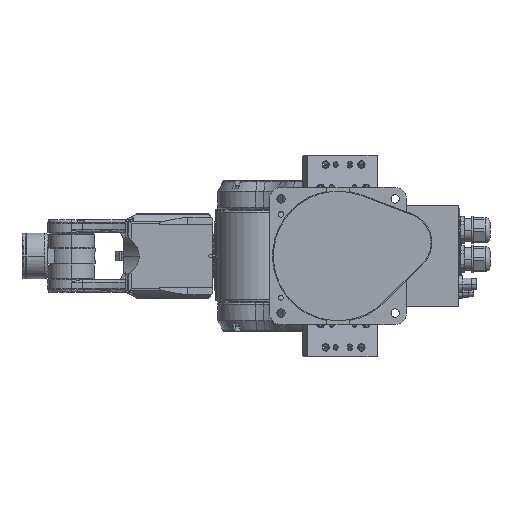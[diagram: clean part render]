
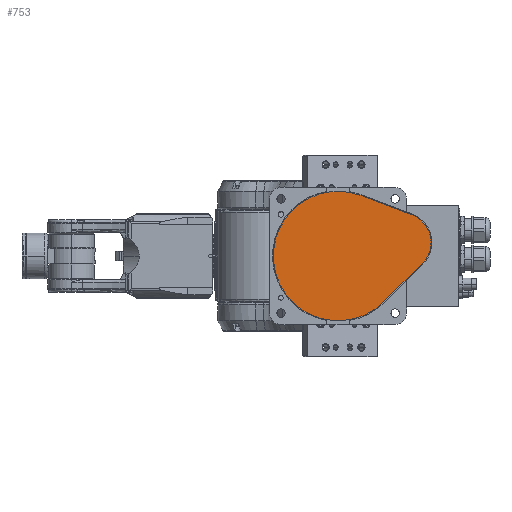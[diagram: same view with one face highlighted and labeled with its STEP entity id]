
A CAD part, front view. The second image highlights one B-rep face of the part: STEP entity #753.
In plain terms, the highlighted planar face has unit normal (0, -1, 0).
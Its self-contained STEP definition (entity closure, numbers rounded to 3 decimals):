
#753 = ADVANCED_FACE( '', ( #3757 ), #3758, .F. );
#3757 = FACE_OUTER_BOUND( '', #9460, .T. );
#3758 = PLANE( '', #9461 );
#9460 = EDGE_LOOP( '', ( #16795, #16796, #16797, #16798, #16799 ) );
#9461 = AXIS2_PLACEMENT_3D( '', #16800, #16801, #16802 );
#16795 = ORIENTED_EDGE( '', *, *, #36554, .F. );
#16796 = ORIENTED_EDGE( '', *, *, #36096, .F. );
#16797 = ORIENTED_EDGE( '', *, *, #36564, .F. );
#16798 = ORIENTED_EDGE( '', *, *, #36560, .F. );
#16799 = ORIENTED_EDGE( '', *, *, #36557, .F. );
#16800 = CARTESIAN_POINT( '', ( 0., 3.5, 0. ) );
#16801 = DIRECTION( '', ( 0., 1., 0. ) );
#16802 = DIRECTION( '', ( 0., 0., 1. ) );
#36096 = EDGE_CURVE( '', #43087, #43090, #43091, .T. );
#36554 = EDGE_CURVE( '', #43090, #43851, #43852, .T. );
#36557 = EDGE_CURVE( '', #43851, #43856, #43857, .T. );
#36560 = EDGE_CURVE( '', #43856, #43861, #43862, .T. );
#36564 = EDGE_CURVE( '', #43861, #43087, #43867, .T. );
#43087 = VERTEX_POINT( '', #54134 );
#43090 = VERTEX_POINT( '', #54138 );
#43091 = CIRCLE( '', #54139, 85. );
#43851 = VERTEX_POINT( '', #55213 );
#43852 = LINE( '', #55214, #55215 );
#43856 = VERTEX_POINT( '', #55221 );
#43857 = CIRCLE( '', #55222, 39. );
#43861 = VERTEX_POINT( '', #55227 );
#43862 = LINE( '', #55228, #55229 );
#43867 = CIRCLE( '', #55236, 85. );
#54134 = CARTESIAN_POINT( '', ( -59.856, 3.5, 60.351 ) );
#54138 = CARTESIAN_POINT( '', ( 30.137, 3.5, 79.478 ) );
#54139 = AXIS2_PLACEMENT_3D( '', #72699, #72700, #72701 );
#55213 = CARTESIAN_POINT( '', ( 96.968, 3.5, 54.136 ) );
#55214 = CARTESIAN_POINT( '', ( 30.137, 3.5, 79.478 ) );
#55215 = VECTOR( '', #73573, 1. );
#55221 = CARTESIAN_POINT( '', ( 110.603, 3.5, -10.021 ) );
#55222 = AXIS2_PLACEMENT_3D( '', #73576, #73577, #73578 );
#55227 = CARTESIAN_POINT( '', ( 59.856, 3.5, -60.351 ) );
#55228 = CARTESIAN_POINT( '', ( 110.603, 3.5, -10.021 ) );
#55229 = VECTOR( '', #73583, 1. );
#55236 = AXIS2_PLACEMENT_3D( '', #73589, #73590, #73591 );
#72699 = CARTESIAN_POINT( '', ( 0., 3.5, 0. ) );
#72700 = DIRECTION( '', ( 0., 1., 0. ) );
#72701 = DIRECTION( '', ( 0.704, 0., -0.71 ) );
#73573 = DIRECTION( '', ( 0.935, 0., -0.355 ) );
#73576 = CARTESIAN_POINT( '', ( 83.14, 3.5, 17.67 ) );
#73577 = DIRECTION( '', ( 0., 1., 0. ) );
#73578 = DIRECTION( '', ( 0.355, 0., 0.935 ) );
#73583 = DIRECTION( '', ( -0.71, 0., -0.704 ) );
#73589 = CARTESIAN_POINT( '', ( 0., 3.5, 0. ) );
#73590 = DIRECTION( '', ( 0., 1., 0. ) );
#73591 = DIRECTION( '', ( 0.704, 0., -0.71 ) );
